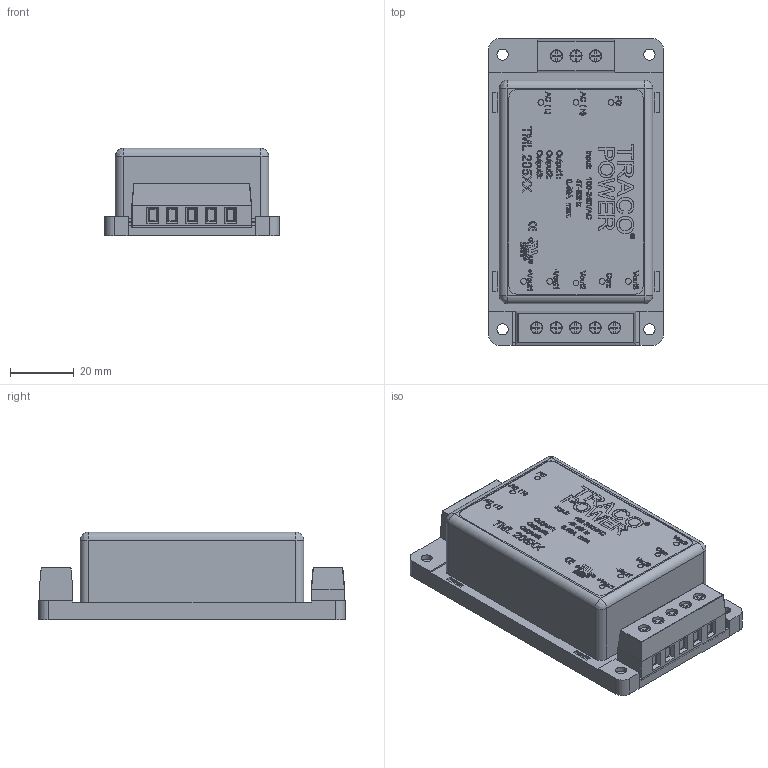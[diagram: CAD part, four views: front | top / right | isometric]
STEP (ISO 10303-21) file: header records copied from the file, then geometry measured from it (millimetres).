
FILE_DESCRIPTION (( 'STEP AP214' ), '1' );
FILE_NAME ('tml20c-triple_1.STEP', '2015-02-20T08:11:46', ( '' ), ( '' ), 'SwSTEP 2.0', 'SolidWorks 2013', '' );
FILE_SCHEMA (( 'AUTOMOTIVE_DESIGN' ));
Length unit declared in the file: millimetre
Products named in the file (10): TML20 ST_3; TMLST PCB_3; TM15ST T_3; tml20c_triple; TM15ST B_3; TML20_3; TML20 B_3; TML20 T_3; tml20c-triple_1
Assembly tree (9 placements, depth 3):
  tml20c-triple_1
    TML20_3
      TML20 T_3
      TML20 B_3
    TML20 ST_3
      TM15ST B_3
      tml20c_triple
      tml20c_triple
      TM15ST T_3
      TMLST PCB_3
Bounding box: 54.6 x 95.9 x 27.5 mm (x, y, z)
Volume: 37296.6 mm3; surface area: 59750.8 mm2
Topology: 15 solids, 15 shells, 2443 faces, 6511 edges, 4313 vertices
Faces by surface type: plane 1555, bspline 645, cylinder 234, torus 9
Entity records: 158061 total; most frequent: CARTESIAN_POINT 73945, ORIENTED_EDGE 12998, DIRECTION 9234, EDGE_CURVE 6499, VECTOR 4726, LINE 4726, VERTEX_POINT 4313, EDGE_LOOP 2724
